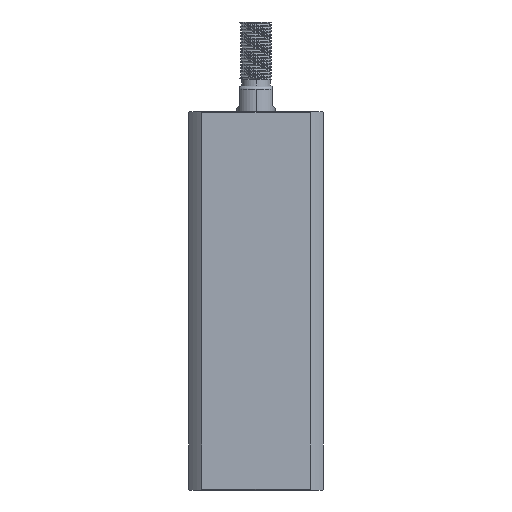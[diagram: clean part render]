
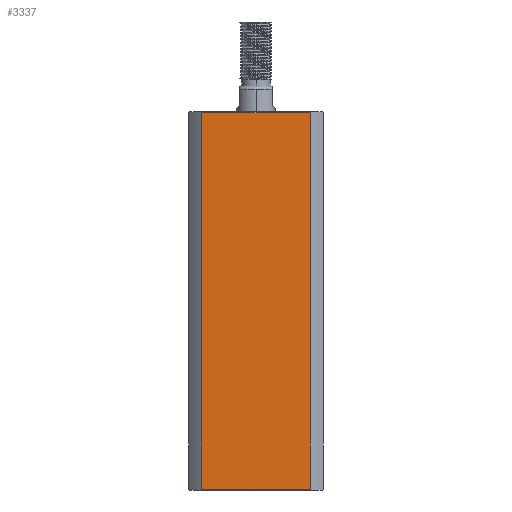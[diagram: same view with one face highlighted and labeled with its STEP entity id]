
A CAD part, left-side view. The second image highlights one B-rep face of the part: STEP entity #3337.
In plain terms, the highlighted planar face has unit normal (-1, 0, 0).
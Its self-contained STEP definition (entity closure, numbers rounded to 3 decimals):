
#682 = CARTESIAN_POINT ( 'NONE',  ( -21., 21., 0.3 ) ) ;
#1085 = VERTEX_POINT ( 'NONE', #14158 ) ;
#1319 = DIRECTION ( 'NONE',  ( 0., 0., -1. ) ) ;
#1600 = ORIENTED_EDGE ( 'NONE', *, *, #14726, .F. ) ;
#2099 = EDGE_CURVE ( 'NONE', #11432, #1085, #11986, .T. ) ;
#2279 = DIRECTION ( 'NONE',  ( 0., 1., 0. ) ) ;
#2529 = VERTEX_POINT ( 'NONE', #8777 ) ;
#2590 = EDGE_CURVE ( 'NONE', #6755, #2529, #11797, .T. ) ;
#3337 = ADVANCED_FACE ( 'NONE', ( #5036 ), #8126, .F. ) ;
#3793 = VECTOR ( 'NONE', #1319, 1000. ) ;
#5036 = FACE_OUTER_BOUND ( 'NONE', #14857, .T. ) ;
#5040 = DIRECTION ( 'NONE',  ( 0., 1., 0. ) ) ;
#5083 = LINE ( 'NONE', #11499, #13929 ) ;
#5711 = CARTESIAN_POINT ( 'NONE',  ( -21., -16.971, 117.7 ) ) ;
#5942 = ORIENTED_EDGE ( 'NONE', *, *, #2099, .T. ) ;
#5989 = ORIENTED_EDGE ( 'NONE', *, *, #8706, .F. ) ;
#6755 = VERTEX_POINT ( 'NONE', #9286 ) ;
#6901 = LINE ( 'NONE', #9491, #3793 ) ;
#6919 = CARTESIAN_POINT ( 'NONE',  ( -21., 21., 118. ) ) ;
#8126 = PLANE ( 'NONE',  #9146 ) ;
#8392 = ORIENTED_EDGE ( 'NONE', *, *, #2590, .T. ) ;
#8706 = EDGE_CURVE ( 'NONE', #6755, #1085, #5083, .T. ) ;
#8765 = VECTOR ( 'NONE', #13762, 1000. ) ;
#8777 = CARTESIAN_POINT ( 'NONE',  ( -21., -16.971, 0.3 ) ) ;
#8953 = VECTOR ( 'NONE', #5040, 1000. ) ;
#9146 = AXIS2_PLACEMENT_3D ( 'NONE', #6919, #9313, #2279 ) ;
#9286 = CARTESIAN_POINT ( 'NONE',  ( -21., 16.971, 0.3 ) ) ;
#9313 = DIRECTION ( 'NONE',  ( 1., 0., 0. ) ) ;
#9491 = CARTESIAN_POINT ( 'NONE',  ( -21., -16.971, -32. ) ) ;
#11432 = VERTEX_POINT ( 'NONE', #5711 ) ;
#11499 = CARTESIAN_POINT ( 'NONE',  ( -21., 16.971, -32. ) ) ;
#11797 = LINE ( 'NONE', #682, #8765 ) ;
#11986 = LINE ( 'NONE', #14552, #8953 ) ;
#13762 = DIRECTION ( 'NONE',  ( 0., -1., 0. ) ) ;
#13929 = VECTOR ( 'NONE', #14904, 1000. ) ;
#14158 = CARTESIAN_POINT ( 'NONE',  ( -21., 16.971, 117.7 ) ) ;
#14552 = CARTESIAN_POINT ( 'NONE',  ( -21., 21., 117.7 ) ) ;
#14726 = EDGE_CURVE ( 'NONE', #11432, #2529, #6901, .T. ) ;
#14857 = EDGE_LOOP ( 'NONE', ( #5989, #8392, #1600, #5942 ) ) ;
#14904 = DIRECTION ( 'NONE',  ( 0., 0., 1. ) ) ;
